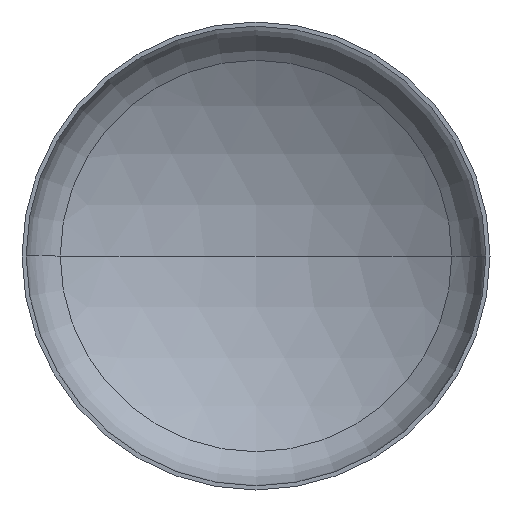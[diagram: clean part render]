
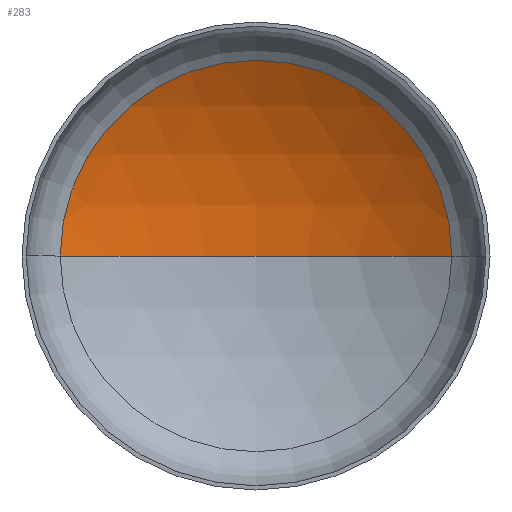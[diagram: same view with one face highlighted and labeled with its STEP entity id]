
A CAD part, front view. The second image highlights one B-rep face of the part: STEP entity #283.
In plain terms, the highlighted spherical face has radius 1520 mm.
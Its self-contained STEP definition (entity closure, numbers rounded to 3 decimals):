
#8 = AXIS2_PLACEMENT_3D ( 'NONE', #393, #182, #148 ) ;
#16 = CIRCLE ( 'NONE', #35, 794.602 ) ;
#23 = EDGE_LOOP ( 'NONE', ( #140, #133, #99 ) ) ;
#25 = VERTEX_POINT ( 'NONE', #249 ) ;
#26 = AXIS2_PLACEMENT_3D ( 'NONE', #168, #198, #359 ) ;
#29 = AXIS2_PLACEMENT_3D ( 'NONE', #56, #38, #31 ) ;
#31 = DIRECTION ( 'NONE',  ( -1., 0., 0. ) ) ;
#35 = AXIS2_PLACEMENT_3D ( 'NONE', #196, #403, #270 ) ;
#38 = DIRECTION ( 'NONE',  ( 0., 0., -1. ) ) ;
#56 = CARTESIAN_POINT ( 'NONE',  ( 0., -993.547, 0. ) ) ;
#68 = VERTEX_POINT ( 'NONE', #246 ) ;
#99 = ORIENTED_EDGE ( 'NONE', *, *, #101, .T. ) ;
#101 = EDGE_CURVE ( 'NONE', #123, #25, #16, .T. ) ;
#105 = EDGE_CURVE ( 'NONE', #68, #123, #233, .T. ) ;
#108 = EDGE_CURVE ( 'NONE', #68, #25, #350, .T. ) ;
#123 = VERTEX_POINT ( 'NONE', #189 ) ;
#133 = ORIENTED_EDGE ( 'NONE', *, *, #105, .T. ) ;
#140 = ORIENTED_EDGE ( 'NONE', *, *, #108, .F. ) ;
#148 = DIRECTION ( 'NONE',  ( -1., 0., 0. ) ) ;
#168 = CARTESIAN_POINT ( 'NONE',  ( 0., -993.547, 0. ) ) ;
#182 = DIRECTION ( 'NONE',  ( 0., 0., -1. ) ) ;
#189 = CARTESIAN_POINT ( 'NONE',  ( 794.602, 302.218, 0. ) ) ;
#196 = CARTESIAN_POINT ( 'NONE',  ( 0., 302.218, 0. ) ) ;
#198 = DIRECTION ( 'NONE',  ( 0., 0., 1. ) ) ;
#233 = CIRCLE ( 'NONE', #29, 1520. ) ;
#246 = CARTESIAN_POINT ( 'NONE',  ( 0., 526.453, 0. ) ) ;
#249 = CARTESIAN_POINT ( 'NONE',  ( -794.602, 302.218, 0. ) ) ;
#270 = DIRECTION ( 'NONE',  ( 1., 0., 0. ) ) ;
#280 = FACE_OUTER_BOUND ( 'NONE', #23, .T. ) ;
#283 = ADVANCED_FACE ( 'NONE', ( #280 ), #339, .F. ) ;
#339 = SPHERICAL_SURFACE ( 'NONE', #8, 1520. ) ;
#350 = CIRCLE ( 'NONE', #26, 1520. ) ;
#359 = DIRECTION ( 'NONE',  ( 1., 0., 0. ) ) ;
#393 = CARTESIAN_POINT ( 'NONE',  ( 0., -993.547, 0. ) ) ;
#403 = DIRECTION ( 'NONE',  ( 0., -1., 0. ) ) ;
